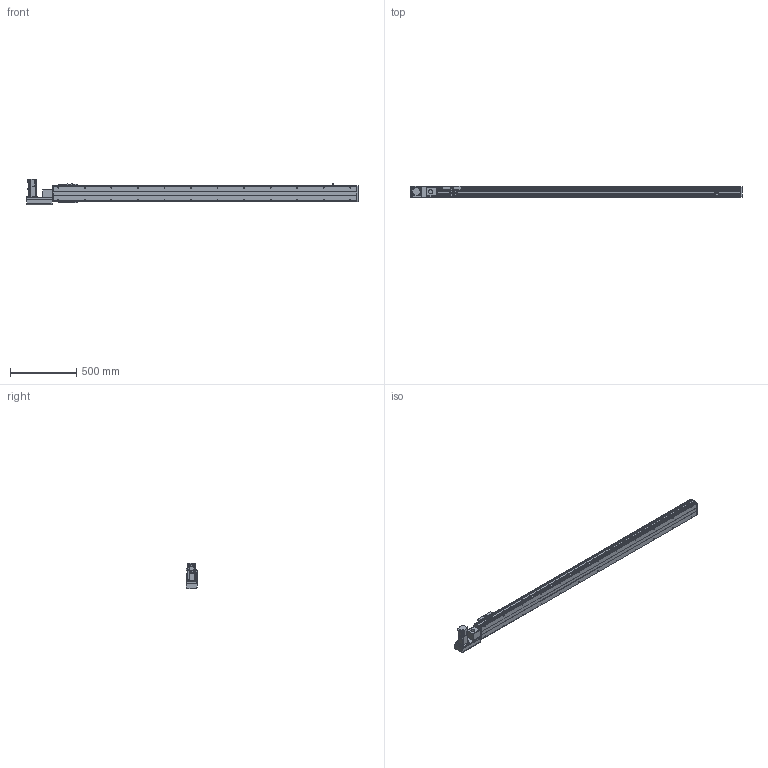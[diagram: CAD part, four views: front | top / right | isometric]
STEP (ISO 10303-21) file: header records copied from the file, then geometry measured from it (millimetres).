
FILE_DESCRIPTION( ( 'STEP AP214' ), '1' );
FILE_NAME( 'x:/temp/worker_26/temp/exporttempdir_3776_71_4zAnb/format_0/PBS120-P40-S2000-L-T40-C1-N(0).stp', '2022-06-05T00:27:42', ( 'License CC BY-ND 4.0' ), ( 'CADENAS' ), ' ', 'PARTsolutions', ' ' );
FILE_SCHEMA( ( 'AUTOMOTIVE_DESIGN { 1 0 10303 214 1 1 1 1 }' ) );
Length unit declared in the file: millimetre
Products named in the file (7): PBS120-P40-S2000-L-T40-C1-N(0); _PBS120-S2000()_body; _PBS120T-L_motors; _T40-p1; _PBS120_sliser; _PBS120_plant; _PBS120_sensor
Assembly tree (8 placements, depth 2):
  PBS120-P40-S2000-L-T40-C1-N(0)
    _PBS120-S2000()_body
    _PBS120T-L_motors
    _T40-p1
    _PBS120_sliser
    _PBS120_plant
    _PBS120_sensor  x3
Bounding box: 2501 x 83 x 189.7 mm (x, y, z)
Volume: 9216353.3 mm3; surface area: 1881818.6 mm2
Topology: 8 solids, 8 shells, 852 faces, 2196 edges, 1411 vertices
Faces by surface type: plane 557, cylinder 237, cone 56, torus 2
Full cylindrical faces by diameter (mm): 2.459 x6, 3.242 x4, 4 x2, 4.134 x4, 4.5 x10, 4.917 x28, 5.5 x11, 6 x2, 6.6 x1, 7 x2, 8.5 x4, 9 x4, 12 x1, 14 x1, 30 x2, 40 x1, 50 x2
Entity records: 27996 total; most frequent: DIRECTION 3836, CARTESIAN_POINT 3749, ORIENTED_EDGE 3550, EDGE_CURVE 1775, AXIS2_PLACEMENT_3D 1304, LINE 1228, VECTOR 1228, VERTEX_POINT 1217
